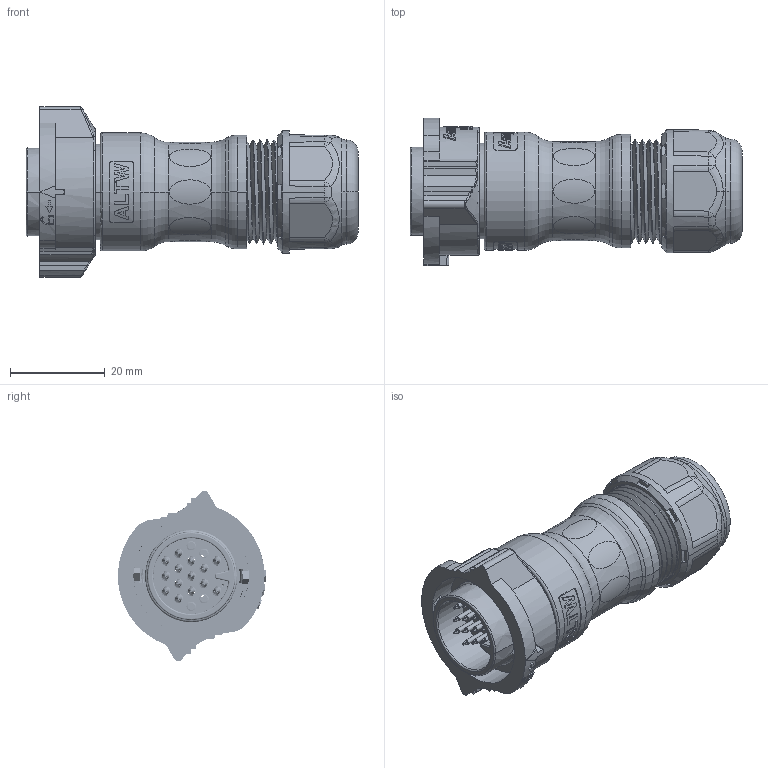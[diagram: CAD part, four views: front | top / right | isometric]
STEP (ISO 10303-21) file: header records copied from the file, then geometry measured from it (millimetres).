
FILE_DESCRIPTION((''),'2;1');
FILE_NAME('DD-XXBFMA-QL8XP0_SW0001','2019-12-20T',('L100003'),(''),'PRO/ENGINEER BY PARAMETRIC TECHNOLOGY CORPORATION, 2017170','PRO/ENGINEER BY PARAMETRIC TECHNOLOGY CORPORATION, 2017170','');
FILE_SCHEMA(('CONFIG_CONTROL_DESIGN'));
Length unit declared in the file: millimetre
Products named in the file (1): DD-XXBFMA-QL8XP0_SW0001
Bounding box: 70.15 x 31.26 x 36 mm (x, y, z)
Volume: 18646.9 mm3; surface area: 22259.5 mm2
Topology: 2 solids, 2 shells, 4727 faces, 13122 edges, 8405 vertices
Faces by surface type: plane 2360, bspline 938, cylinder 714, cone 336, extrusion 252, torus 98, sphere 29
Entity records: 211448 total; most frequent: CARTESIAN_POINT 97091, ORIENTED_EDGE 26240, DIRECTION 20025, EDGE_CURVE 13120, VERTEX_POINT 8405, VECTOR 7037, LINE 6785, AXIS2_PLACEMENT_3D 6494
